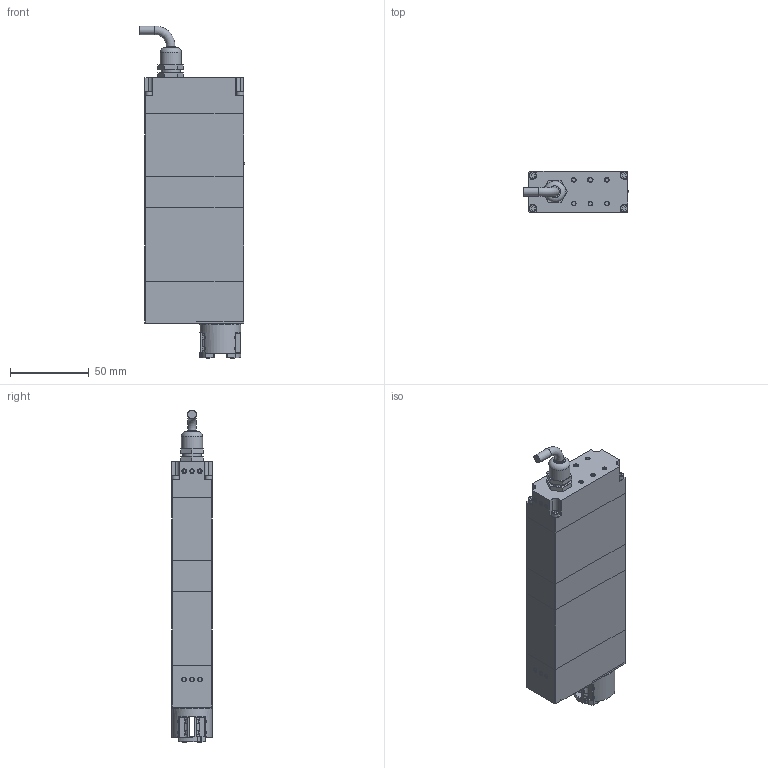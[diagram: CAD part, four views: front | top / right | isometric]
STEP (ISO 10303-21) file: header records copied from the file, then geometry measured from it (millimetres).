
FILE_DESCRIPTION (( 'STEP AP214' ), '1' );
FILE_NAME ('HERG08-020.STEP', '2022-07-07T10:13:43', ( 'User' ), ( 'China' ), 'SwSTEP 2.0', 'SolidWorks 2016', '' );
FILE_SCHEMA (( 'AUTOMOTIVE_DESIGN' ));
Length unit declared in the file: millimetre
Products named in the file (14): x8; x5; 0; x1; x22; x2; HERG08-020; x9; xx06_1; x6; x4; 2; x3; GB／T70．1-2000内六角圆柱头螺钉M2．5×12
Assembly tree (17 placements, depth 4):
  HERG08-020
    x1
    x2
      x22
        0
        2  x2
    x3
    x4
    x5
    x6
    x8
    x9
    GB／T70．1-2000内六角圆柱头螺钉M2．5×12  x4
    xx06_1
Bounding box: 67 x 26 x 210.75 mm (x, y, z)
Volume: 265375 mm3; surface area: 54336.6 mm2
Topology: 16 solids, 16 shells, 725 faces, 1776 edges, 1157 vertices
Faces by surface type: plane 396, bspline 149, cylinder 124, cone 54, torus 2
Full cylindrical faces by diameter (mm): 1.6 x6, 2 x8, 2.5 x20, 2.7 x4, 2.8 x2, 4 x1, 4.5 x4, 5 x2, 5.5 x2, 5.6 x1, 9 x1, 12 x3, 13.5 x1, 22.4 x2, 26 x1
Entity records: 23845 total; most frequent: CARTESIAN_POINT 9122, ORIENTED_EDGE 2816, DIRECTION 2280, EDGE_CURVE 1408, VERTEX_POINT 967, VECTOR 882, LINE 882, EDGE_LOOP 759
